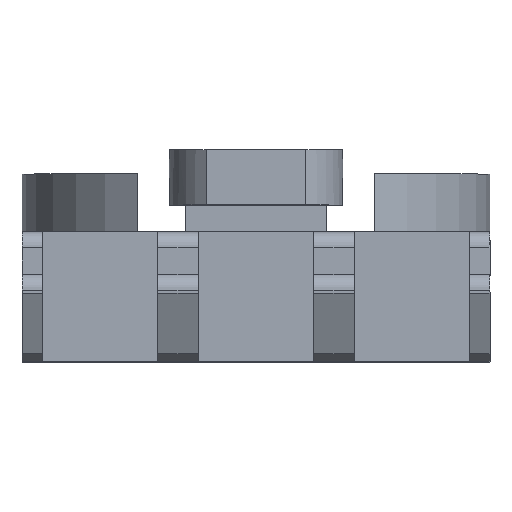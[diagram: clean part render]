
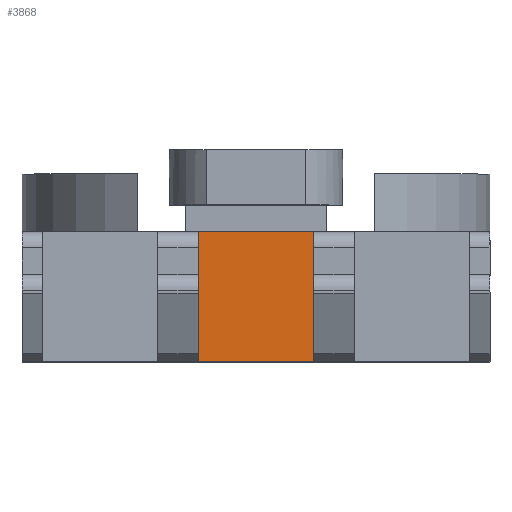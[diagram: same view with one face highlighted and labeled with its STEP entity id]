
A CAD part, top view. The second image highlights one B-rep face of the part: STEP entity #3868.
In plain terms, the highlighted planar face has unit normal (0, 0, 1).
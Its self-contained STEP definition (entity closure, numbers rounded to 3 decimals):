
#967 = EDGE_CURVE ( 'NONE', #3840, #2252, #3087, .T. ) ;
#1015 = AXIS2_PLACEMENT_3D ( 'NONE', #1700, #3661, #3326 ) ;
#1047 = EDGE_CURVE ( 'NONE', #3990, #3098, #3454, .T. ) ;
#1074 = EDGE_CURVE ( 'NONE', #3840, #3990, #2433, .T. ) ;
#1108 = FACE_OUTER_BOUND ( 'NONE', #2217, .T. ) ;
#1135 = PLANE ( 'NONE',  #1015 ) ;
#1288 = VECTOR ( 'NONE', #1456, 1000. ) ;
#1331 = CARTESIAN_POINT ( 'NONE',  ( -3.65, 8.2, 19. ) ) ;
#1456 = DIRECTION ( 'NONE',  ( 0., 1., 0. ) ) ;
#1502 = CARTESIAN_POINT ( 'NONE',  ( -3.65, -3.8, 19. ) ) ;
#1700 = CARTESIAN_POINT ( 'NONE',  ( -3.65, -3.8, 19. ) ) ;
#1770 = ORIENTED_EDGE ( 'NONE', *, *, #1047, .T. ) ;
#1877 = DIRECTION ( 'NONE',  ( -1., 0., 0. ) ) ;
#2037 = CARTESIAN_POINT ( 'NONE',  ( 3.65, 0., 19. ) ) ;
#2123 = ORIENTED_EDGE ( 'NONE', *, *, #967, .F. ) ;
#2163 = VECTOR ( 'NONE', #1877, 1000. ) ;
#2217 = EDGE_LOOP ( 'NONE', ( #3311, #1770, #3240, #2123 ) ) ;
#2252 = VERTEX_POINT ( 'NONE', #1331 ) ;
#2433 = LINE ( 'NONE', #3017, #2646 ) ;
#2543 = VECTOR ( 'NONE', #3095, 1000. ) ;
#2646 = VECTOR ( 'NONE', #3006, 1000. ) ;
#2801 = CARTESIAN_POINT ( 'NONE',  ( -3.65, 0., 19. ) ) ;
#2875 = CARTESIAN_POINT ( 'NONE',  ( 3.65, 8.2, 19. ) ) ;
#3006 = DIRECTION ( 'NONE',  ( 1., 0., 0. ) ) ;
#3017 = CARTESIAN_POINT ( 'NONE',  ( 0., 0., 19. ) ) ;
#3076 = CARTESIAN_POINT ( 'NONE',  ( 3.65, -3.8, 19. ) ) ;
#3087 = LINE ( 'NONE', #1502, #1288 ) ;
#3095 = DIRECTION ( 'NONE',  ( 0., 1., 0. ) ) ;
#3098 = VERTEX_POINT ( 'NONE', #2875 ) ;
#3157 = LINE ( 'NONE', #3693, #2163 ) ;
#3240 = ORIENTED_EDGE ( 'NONE', *, *, #3346, .T. ) ;
#3311 = ORIENTED_EDGE ( 'NONE', *, *, #1074, .T. ) ;
#3326 = DIRECTION ( 'NONE',  ( -1., 0., 0. ) ) ;
#3346 = EDGE_CURVE ( 'NONE', #3098, #2252, #3157, .T. ) ;
#3454 = LINE ( 'NONE', #3076, #2543 ) ;
#3661 = DIRECTION ( 'NONE',  ( 0., 0., -1. ) ) ;
#3693 = CARTESIAN_POINT ( 'NONE',  ( -3.65, 8.2, 19. ) ) ;
#3840 = VERTEX_POINT ( 'NONE', #2801 ) ;
#3868 = ADVANCED_FACE ( 'NONE', ( #1108 ), #1135, .F. ) ;
#3990 = VERTEX_POINT ( 'NONE', #2037 ) ;
